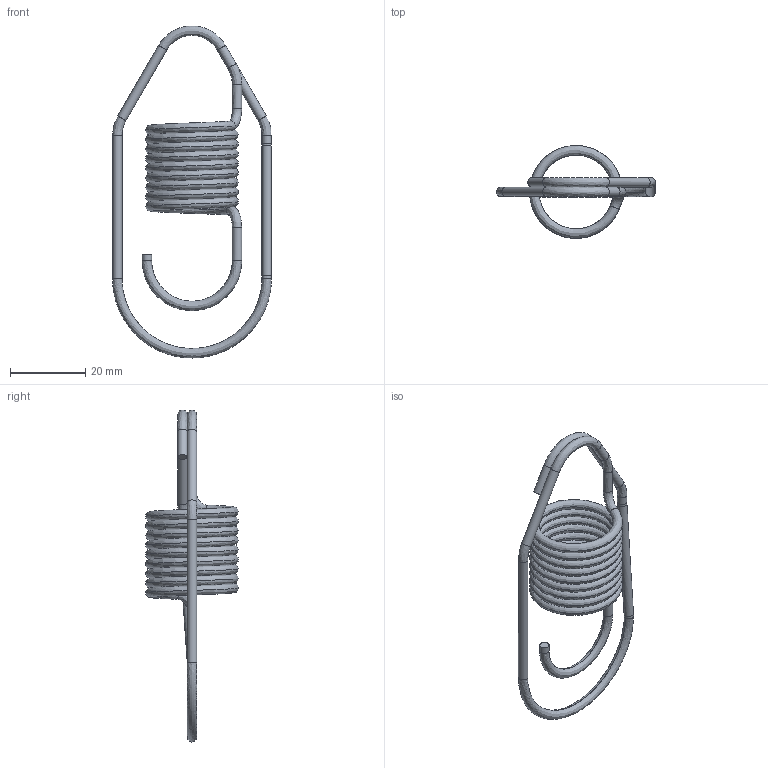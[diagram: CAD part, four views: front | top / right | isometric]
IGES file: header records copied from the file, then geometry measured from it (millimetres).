
Global section: file name: E:\lem\3DCAD_AC_SL_ERS.igs; native system: NX V8.5; preprocessor: SIEMENS PLM Software NX 8.5; date: 20170728.132035; units: millimetre
Bounding box: 42.1 x 24.6 x 87.99 mm (x, y, z)
Surface area: 7331.6 mm2 (no closed solid volume)
Topology: 0 solids, 0 shells, 25 faces, 150 edges, 148 vertices
Faces by surface type: bspline 25
